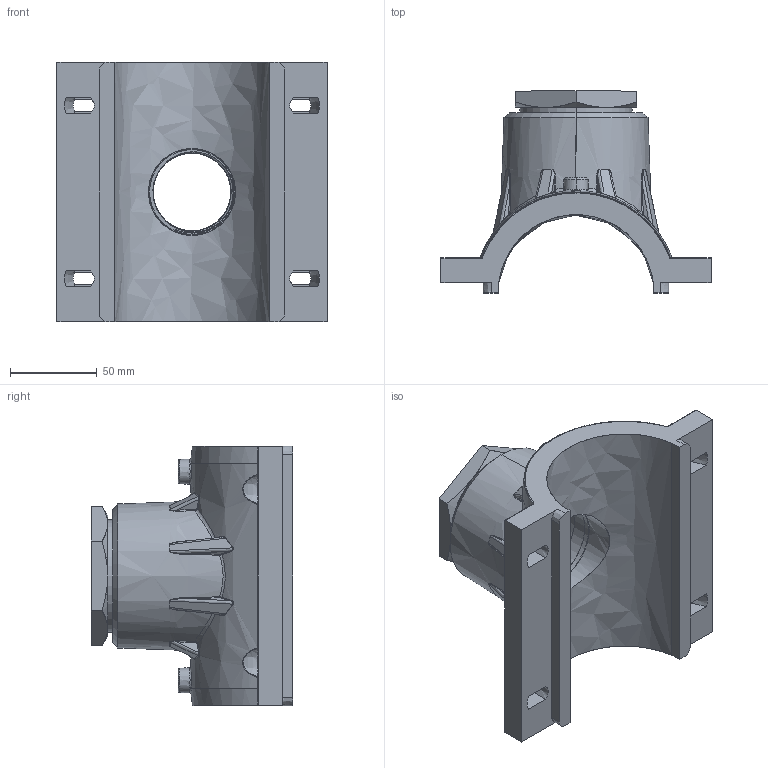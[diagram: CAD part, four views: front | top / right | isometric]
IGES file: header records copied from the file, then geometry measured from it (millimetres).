
Start section:  PTC IGES file: vam-rg_d090_1_1_2_01.igs
Global section: file name: vam-rg_d090_1_1_2_01.igs; native system: Pro/ENGINEER by Parametric Technology Corporation; preprocessor: 2011490; author: mtunjic; organization: Unknown; date: 20130909.110123; units: millimetre
Bounding box: 156 x 116.5 x 150 mm (x, y, z)
Surface area: 105234.3 mm2 (no closed solid volume)
Topology: 0 solids, 0 shells, 460 faces, 2286 edges, 2286 vertices
Faces by surface type: bspline 460
